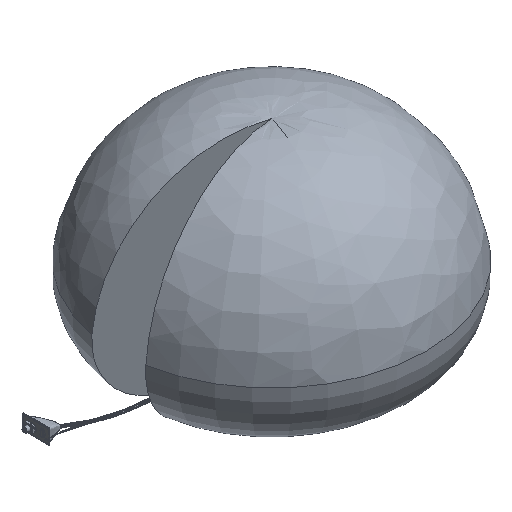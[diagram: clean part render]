
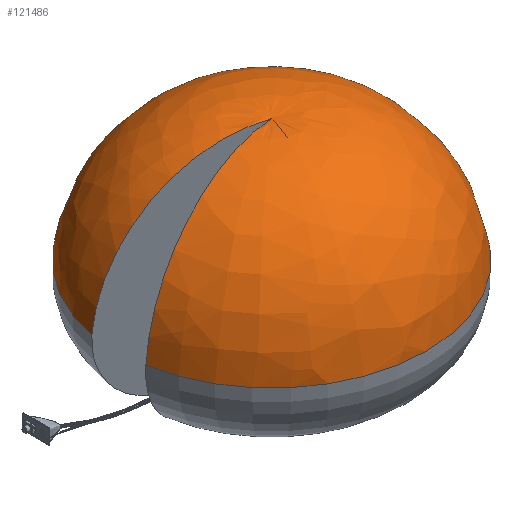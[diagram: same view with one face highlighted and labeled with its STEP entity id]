
A CAD part, isometric view. The second image highlights one B-rep face of the part: STEP entity #121486.
In plain terms, the highlighted free-form (B-spline) face has degree [2, 2] with [5, 9] control points.
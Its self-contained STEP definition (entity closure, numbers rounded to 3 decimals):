
#294=(
BOUNDED_SURFACE()
B_SPLINE_SURFACE(2,2,((#269280,#269281,#269282,#269283,#269284,#269285,
#269286,#269287,#269288),(#269289,#269290,#269291,#269292,#269293,#269294,
#269295,#269296,#269297),(#269298,#269299,#269300,#269301,#269302,#269303,
#269304,#269305,#269306),(#269307,#269308,#269309,#269310,#269311,#269312,
#269313,#269314,#269315),(#269316,#269317,#269318,#269319,#269320,#269321,
#269322,#269323,#269324)),.UNSPECIFIED.,.F.,.F.,.F.)
B_SPLINE_SURFACE_WITH_KNOTS((3,2,3),(3,2,2,2,3),(0.086,0.897,
1.708),(-2.967,-1.484,0.,
1.484,2.967),.UNSPECIFIED.)
GEOMETRIC_REPRESENTATION_ITEM()
RATIONAL_B_SPLINE_SURFACE(((1.,0.737,1.,0.737,1.,
0.737,1.,0.737,1.),(0.919,0.677,
0.919,0.677,0.919,0.677,
0.919,0.677,0.919),(1.,0.737,
1.,0.737,1.,0.737,1.,0.737,1.),(0.919,
0.677,0.919,0.677,0.919,
0.677,0.919,0.677,0.919),
(1.,0.737,1.,0.737,1.,0.737,1.,0.737,
1.)))
REPRESENTATION_ITEM('')
SURFACE()
);
#10083=CIRCLE('',#131990,2650.);
#10090=CIRCLE('',#131997,2338.568);
#10091=CIRCLE('',#131998,2338.568);
#17463=FACE_OUTER_BOUND('',#25483,.T.);
#25483=EDGE_LOOP('',(#102958,#102959,#102960));
#56083=VERTEX_POINT('',#269195);
#56084=VERTEX_POINT('',#269197);
#56088=VERTEX_POINT('',#269325);
#72057=EDGE_CURVE('',#56084,#56083,#10083,.T.);
#72064=EDGE_CURVE('',#56088,#56083,#10090,.T.);
#72065=EDGE_CURVE('',#56088,#56084,#10091,.T.);
#102958=ORIENTED_EDGE('',*,*,#72057,.T.);
#102959=ORIENTED_EDGE('',*,*,#72064,.F.);
#102960=ORIENTED_EDGE('',*,*,#72065,.T.);
#121486=ADVANCED_FACE('',(#17463),#294,.F.);
#131990=AXIS2_PLACEMENT_3D('',#269198,#159945,#159946);
#131997=AXIS2_PLACEMENT_3D('',#269326,#159959,#159960);
#131998=AXIS2_PLACEMENT_3D('',#269327,#159961,#159962);
#159945=DIRECTION('center_axis',(0.,0.,1.));
#159946=DIRECTION('ref_axis',(1.,0.,0.));
#159959=DIRECTION('center_axis',(-0.174,-0.985,
0.));
#159960=DIRECTION('ref_axis',(0.,0.,-1.));
#159961=DIRECTION('center_axis',(0.174,-0.985,0.));
#159962=DIRECTION('ref_axis',(0.,0.,-1.));
#269195=CARTESIAN_POINT('',(-2609.741,460.168,980.));
#269197=CARTESIAN_POINT('',(-2609.741,-460.168,980.));
#269198=CARTESIAN_POINT('Origin',(0.,0.,980.));
#269280=CARTESIAN_POINT('Ctrl Pts',(-2609.741,-460.168,
980.));
#269281=CARTESIAN_POINT('Ctrl Pts',(-2188.075,-2851.554,
980.));
#269282=CARTESIAN_POINT('Ctrl Pts',(230.963,-2639.916,
980.));
#269283=CARTESIAN_POINT('Ctrl Pts',(2650.,-2428.278,980.));
#269284=CARTESIAN_POINT('Ctrl Pts',(2650.,0.,980.));
#269285=CARTESIAN_POINT('Ctrl Pts',(2650.,2428.278,980.));
#269286=CARTESIAN_POINT('Ctrl Pts',(230.963,2639.916,980.));
#269287=CARTESIAN_POINT('Ctrl Pts',(-2188.075,2851.554,
980.));
#269288=CARTESIAN_POINT('Ctrl Pts',(-2609.741,460.168,
980.));
#269289=CARTESIAN_POINT('Ctrl Pts',(-2525.161,-445.254,
1980.55));
#269290=CARTESIAN_POINT('Ctrl Pts',(-2117.161,-2759.138,
1980.55));
#269291=CARTESIAN_POINT('Ctrl Pts',(223.477,-2554.359,1980.55));
#269292=CARTESIAN_POINT('Ctrl Pts',(2564.116,-2349.579,
1980.55));
#269293=CARTESIAN_POINT('Ctrl Pts',(2564.116,0.,1980.55));
#269294=CARTESIAN_POINT('Ctrl Pts',(2564.116,2349.579,1980.55));
#269295=CARTESIAN_POINT('Ctrl Pts',(223.477,2554.359,1980.55));
#269296=CARTESIAN_POINT('Ctrl Pts',(-2117.161,2759.138,
1980.55));
#269297=CARTESIAN_POINT('Ctrl Pts',(-2525.161,445.254,1980.55));
#269298=CARTESIAN_POINT('Ctrl Pts',(-1752.416,-308.998,
2607.268));
#269299=CARTESIAN_POINT('Ctrl Pts',(-1469.271,-1914.791,
2607.268));
#269300=CARTESIAN_POINT('Ctrl Pts',(155.089,-1772.678,
2607.268));
#269301=CARTESIAN_POINT('Ctrl Pts',(1779.45,-1630.565,
2607.268));
#269302=CARTESIAN_POINT('Ctrl Pts',(1779.45,0.,2607.268));
#269303=CARTESIAN_POINT('Ctrl Pts',(1779.45,1630.565,2607.268));
#269304=CARTESIAN_POINT('Ctrl Pts',(155.089,1772.678,2607.268));
#269305=CARTESIAN_POINT('Ctrl Pts',(-1469.271,1914.791,
2607.268));
#269306=CARTESIAN_POINT('Ctrl Pts',(-1752.416,308.998,
2607.268));
#269307=CARTESIAN_POINT('Ctrl Pts',(-979.67,-172.742,
3233.985));
#269308=CARTESIAN_POINT('Ctrl Pts',(-821.381,-1070.445,
3233.985));
#269309=CARTESIAN_POINT('Ctrl Pts',(86.701,-990.998,
3233.985));
#269310=CARTESIAN_POINT('Ctrl Pts',(994.783,-911.551,3233.985));
#269311=CARTESIAN_POINT('Ctrl Pts',(994.783,0.,3233.985));
#269312=CARTESIAN_POINT('Ctrl Pts',(994.783,911.551,3233.985));
#269313=CARTESIAN_POINT('Ctrl Pts',(86.701,990.998,3233.985));
#269314=CARTESIAN_POINT('Ctrl Pts',(-821.381,1070.445,
3233.985));
#269315=CARTESIAN_POINT('Ctrl Pts',(-979.67,172.742,
3233.985));
#269316=CARTESIAN_POINT('Ctrl Pts',(0.,0.,
3096.571));
#269317=CARTESIAN_POINT('Ctrl Pts',(0.,0.,
3096.571));
#269318=CARTESIAN_POINT('Ctrl Pts',(0.,0.,
3096.571));
#269319=CARTESIAN_POINT('Ctrl Pts',(0.,0.,
3096.571));
#269320=CARTESIAN_POINT('Ctrl Pts',(0.,0.,3096.571));
#269321=CARTESIAN_POINT('Ctrl Pts',(0.,0.,
3096.571));
#269322=CARTESIAN_POINT('Ctrl Pts',(0.,0.,
3096.571));
#269323=CARTESIAN_POINT('Ctrl Pts',(0.,0.,
3096.571));
#269324=CARTESIAN_POINT('Ctrl Pts',(0.,0.,
3096.571));
#269325=CARTESIAN_POINT('',(0.,0.,3096.571));
#269326=CARTESIAN_POINT('Origin',(-315.138,55.567,780.));
#269327=CARTESIAN_POINT('Origin',(-315.138,-55.567,780.));
